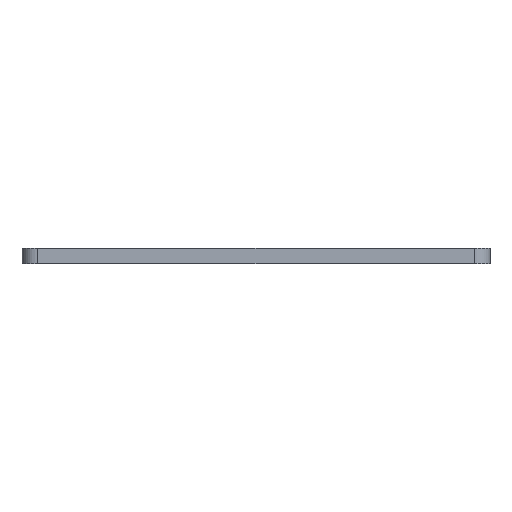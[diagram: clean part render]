
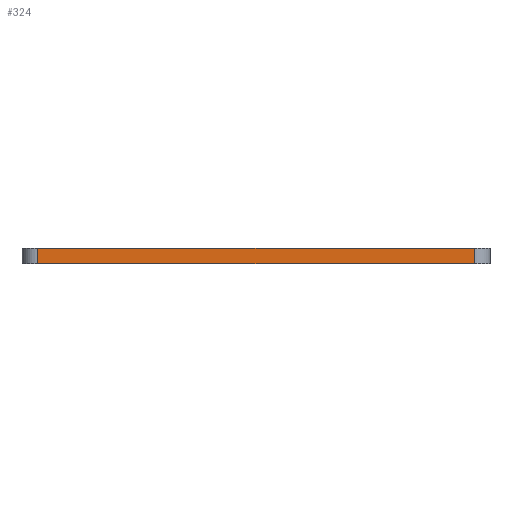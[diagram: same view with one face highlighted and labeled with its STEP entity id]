
A CAD part, front view. The second image highlights one B-rep face of the part: STEP entity #324.
In plain terms, the highlighted planar face has unit normal (0, -1, 0).
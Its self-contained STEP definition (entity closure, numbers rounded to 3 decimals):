
#23 = AXIS2_PLACEMENT_3D ( 'NONE', #749, #606, #469 ) ;
#45 = DIRECTION ( 'NONE',  ( 0., 0., 1. ) ) ;
#99 = VERTEX_POINT ( 'NONE', #147 ) ;
#100 = LINE ( 'NONE', #908, #826 ) ;
#115 = ORIENTED_EDGE ( 'NONE', *, *, #215, .F. ) ;
#124 = LINE ( 'NONE', #666, #867 ) ;
#147 = CARTESIAN_POINT ( 'NONE',  ( 50.078, -15.576, 0. ) ) ;
#151 = DIRECTION ( 'NONE',  ( 0., 0., -1. ) ) ;
#163 = CARTESIAN_POINT ( 'NONE',  ( 50.078, -15.576, 3. ) ) ;
#174 = ORIENTED_EDGE ( 'NONE', *, *, #360, .T. ) ;
#208 = VERTEX_POINT ( 'NONE', #163 ) ;
#215 = EDGE_CURVE ( 'NONE', #464, #208, #124, .T. ) ;
#290 = LINE ( 'NONE', #437, #636 ) ;
#324 = ADVANCED_FACE ( 'NONE', ( #679 ), #385, .F. ) ;
#360 = EDGE_CURVE ( 'NONE', #464, #542, #290, .T. ) ;
#385 = PLANE ( 'NONE',  #23 ) ;
#428 = VECTOR ( 'NONE', #475, 1000. ) ;
#437 = CARTESIAN_POINT ( 'NONE',  ( -31.922, -15.576, 0. ) ) ;
#449 = CARTESIAN_POINT ( 'NONE',  ( -31.922, -15.576, 3. ) ) ;
#464 = VERTEX_POINT ( 'NONE', #449 ) ;
#469 = DIRECTION ( 'NONE',  ( 0., 0., 1. ) ) ;
#475 = DIRECTION ( 'NONE',  ( 1., 0., 0. ) ) ;
#542 = VERTEX_POINT ( 'NONE', #751 ) ;
#562 = EDGE_CURVE ( 'NONE', #542, #99, #811, .T. ) ;
#594 = DIRECTION ( 'NONE',  ( 1., 0., 0. ) ) ;
#606 = DIRECTION ( 'NONE',  ( 0., 1., 0. ) ) ;
#611 = EDGE_LOOP ( 'NONE', ( #115, #174, #810, #690 ) ) ;
#636 = VECTOR ( 'NONE', #151, 1000. ) ;
#666 = CARTESIAN_POINT ( 'NONE',  ( 0., -15.576, 3. ) ) ;
#679 = FACE_OUTER_BOUND ( 'NONE', #611, .T. ) ;
#690 = ORIENTED_EDGE ( 'NONE', *, *, #752, .T. ) ;
#749 = CARTESIAN_POINT ( 'NONE',  ( 0., -15.576, 3. ) ) ;
#751 = CARTESIAN_POINT ( 'NONE',  ( -31.922, -15.576, 0. ) ) ;
#752 = EDGE_CURVE ( 'NONE', #99, #208, #100, .T. ) ;
#810 = ORIENTED_EDGE ( 'NONE', *, *, #562, .T. ) ;
#811 = LINE ( 'NONE', #905, #428 ) ;
#826 = VECTOR ( 'NONE', #45, 1000. ) ;
#867 = VECTOR ( 'NONE', #594, 1000. ) ;
#905 = CARTESIAN_POINT ( 'NONE',  ( 0., -15.576, 0. ) ) ;
#908 = CARTESIAN_POINT ( 'NONE',  ( 50.078, -15.576, 3. ) ) ;
